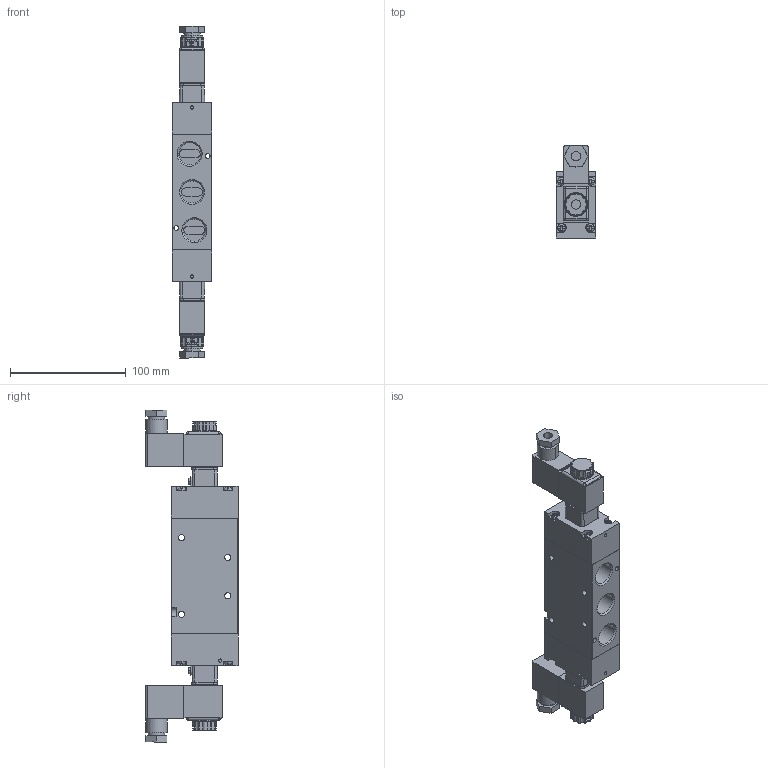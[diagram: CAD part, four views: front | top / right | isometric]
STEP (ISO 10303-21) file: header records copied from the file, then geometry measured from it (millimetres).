
FILE_DESCRIPTION (( 'STEP AP214' ), '1' );
FILE_NAME ('Janatics-Default.STEP', '2022-06-20T08:25:09', ( '' ), ( '' ), 'SwSTEP 2.0', 'SolidWorks 2021', '' );
FILE_SCHEMA (( 'AUTOMOTIVE_DESIGN' ));
Length unit declared in the file: millimetre
Products named in the file (15): 713008 A - Nut - M8X0.75; 073000-Core Tube Retainer; 414337-End cover; 827701 B - Slotted counter sunk head screw - M3X0.5 X 20; 880017 C - Connector screw; Combination head screw_827531; 880017 C - Connector; 723005- Housing; 723006- Manual Adjuster_trial; DS234SR60-Core tube; Janatics-Default; End Cover Assyembly 1; 880047 D - Coil assembly 24V DC; Coil Assembly; 414035-Housing_414025
Assembly tree (20 placements, depth 3):
  Janatics-Default
    414035-Housing_414025
    End Cover Assyembly 1  x2
      414337-End cover
      Combination head screw_827531
      723005- Housing
      073000-Core Tube Retainer
      DS234SR60-Core tube
      827701 B - Slotted counter sunk head screw - M3X0.5 X 20
      723006- Manual Adjuster_trial
    Coil Assembly  x2
      880047 D - Coil assembly 24V DC
      880017 C - Connector
      880017 C - Connector screw
      713008 A - Nut - M8X0.75
Bounding box: 34 x 79.85 x 286.5 mm (x, y, z)
Volume: 373764 mm3; surface area: 101099 mm2
Topology: 31 solids, 31 shells, 1307 faces, 3217 edges, 2001 vertices
Faces by surface type: plane 507, cylinder 436, torus 148, bspline 120, cone 96
Entity records: 21004 total; most frequent: CARTESIAN_POINT 4861, DIRECTION 3225, ORIENTED_EDGE 3070, EDGE_CURVE 1535, AXIS2_PLACEMENT_3D 1272, VERTEX_POINT 962, EDGE_LOOP 721, LINE 681
